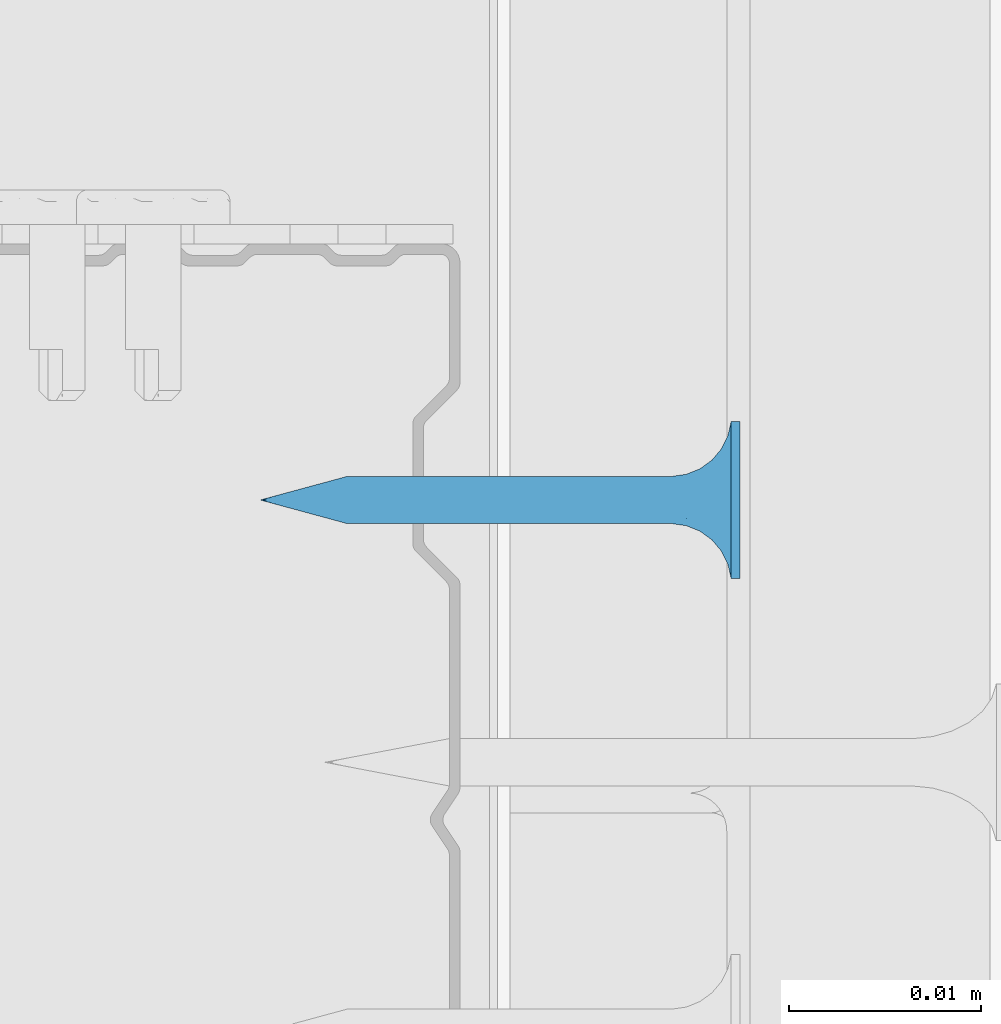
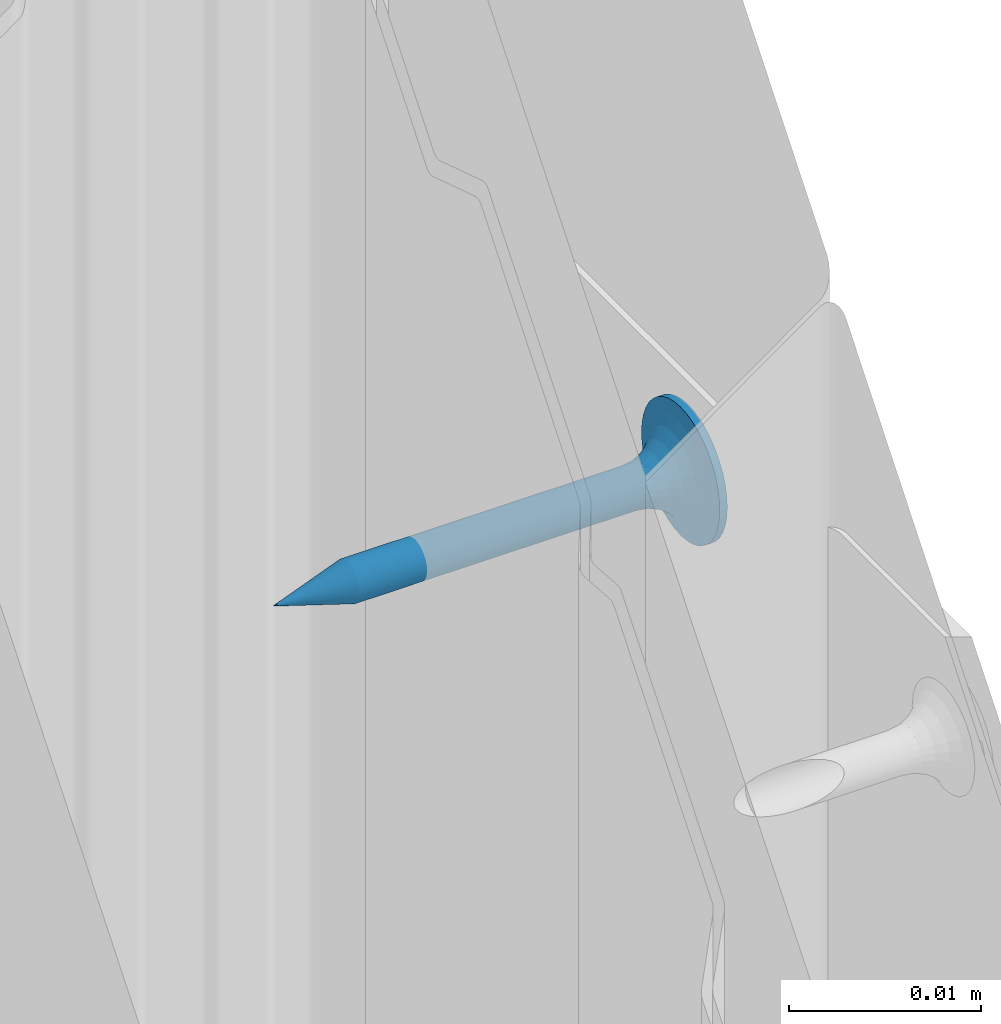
# One storey, part 39 of 67: 1 wall.
"""IFC2X3 building model written with IfcOpenShell, lengths in millimetres."""

from ifc_helpers import new_model, si_unit, frame, origin_with_axes, place, context, subcontext, project, spatial, faceted_brep, material, type_object, element, save


model = new_model("IFC2X3")

# Units and contexts
model_context = context("Model", 3, world=origin_with_axes())
body_context = subcontext(model_context, "Body", "Model", "MODEL_VIEW")
ifc_project = project(units=[si_unit("LENGTHUNIT", "METRE", prefix="MILLI"), si_unit("AREAUNIT", "SQUARE_METRE"), si_unit("VOLUMEUNIT", "CUBIC_METRE")], contexts=[model_context])

# Site, building, storey
site_placement = place(None, frame((2152.14102611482, 674.9749105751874, 57.61556563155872), z_axis=(0.0, 0.0, 1.0), x_axis=(-1.1102230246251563e-16, 1.0, 0.0)))
site = spatial("IfcSite", under=ifc_project, at=site_placement, Name="Default Site", CompositionType="ELEMENT")
building_placement = place(site_placement, origin_with_axes())
building = spatial("IfcBuilding", under=site, at=building_placement, Name="Default Building", CompositionType="ELEMENT")
storey_placement = place(building_placement, origin_with_axes())
storey = spatial("IfcBuildingStorey", under=building, at=storey_placement, Name="Default Building Storey", CompositionType="ELEMENT", Elevation=57.61556563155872)

# Wall
ifc_material = material(Name="Default")
wall_type = type_object("IfcWallType", Name="Wkręt RIGIPS TN 25#17", PredefinedType="NOTDEFINED")
wall_placement = place(storey_placement, frame((2392.151464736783, 5320.213057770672, 300.1214699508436), z_axis=(0.0, 0.0, 1.0), x_axis=(1.0, 0.0, 0.0)))
element("IfcWall", 1, at=wall_placement, inside=storey, type_object=wall_type, material=ifc_material, Name="Wkręt RIGIPS TN 25", context=body_context, shape_type="Brep", body=[
    faceted_brep([(-141.48753293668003, -3390.5567221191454, 555.1619773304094), (-141.48753293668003, -3391.0209445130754, 555.1619773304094), (-141.5377465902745, -3391.0209445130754, 555.8000000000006), (-141.5377465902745, -3390.5567221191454, 555.8000000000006), (-141.33812900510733, -3390.5567221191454, 554.539664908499), (-141.33812900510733, -3391.0209445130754, 554.539664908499), (-141.09321328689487, -3390.5567221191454, 553.9483861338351), (-141.09321328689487, -3391.0209445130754, 553.9483861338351), (-140.75881656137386, -3390.5567221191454, 553.4027002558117), (-140.75881656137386, -3391.0209445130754, 553.4027002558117), (-140.34317265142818, -3391.0209445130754, 552.9160436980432), (-140.45417279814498, -3390.5567221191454, 553.031490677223), (-139.8565160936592, -3391.0209445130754, 552.5003997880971), (-140.1080097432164, -3390.5567221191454, 552.6986613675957), (-139.72512626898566, -3390.5567221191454, 552.408826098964), (-139.31083021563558, -3391.0209445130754, 552.1660030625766), (-139.31083021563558, -3390.5567221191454, 552.1660030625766), (-138.71955144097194, -3391.0209445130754, 551.9210873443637), (-138.87086516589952, -3390.5567221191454, 551.973558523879), (-138.41133029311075, -3390.5567221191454, 551.8341602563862), (-138.0972390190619, -3391.0209445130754, 551.7716834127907), (-137.9385961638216, -3390.5567221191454, 551.7497405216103), (-137.45921634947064, -3391.0209445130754, 551.7214697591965), (-137.45921634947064, -3390.5567221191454, 551.7214697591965), (-136.82119367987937, -3390.5567221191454, 551.7716834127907), (-136.82119367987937, -3391.0209445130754, 551.7716834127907), (-136.19888125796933, -3390.5567221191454, 551.9210873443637), (-136.19888125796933, -3391.0209445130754, 551.9210873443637), (-135.6076024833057, -3390.5567221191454, 552.1660030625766), (-135.6076024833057, -3391.0209445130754, 552.1660030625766), (-135.06191660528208, -3390.5567221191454, 552.5003997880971), (-135.06191660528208, -3391.0209445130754, 552.5003997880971), (-134.57526004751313, -3390.5567221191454, 552.9160436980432), (-134.57526004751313, -3391.0209445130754, 552.9160436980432), (-134.1596161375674, -3390.5567221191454, 553.4027002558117), (-134.1596161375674, -3391.0209445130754, 553.4027002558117), (-133.8252194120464, -3390.5567221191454, 553.9483861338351), (-133.8252194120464, -3391.0209445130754, 553.9483861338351), (-133.58030369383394, -3390.5567221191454, 554.539664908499), (-133.58030369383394, -3391.0209445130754, 554.539664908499), (-133.3806861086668, -3391.0209445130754, 555.8000000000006), (-133.3806861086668, -3390.5567221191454, 555.8000000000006), (-133.43089976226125, -3390.5567221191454, 556.4380226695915), (-133.43089976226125, -3391.0209445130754, 556.4380226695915), (-133.43089976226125, -3391.0209445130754, 555.1619773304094), (-133.43089976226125, -3390.5567221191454, 555.1619773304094), (-133.58030369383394, -3390.5567221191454, 557.060335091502), (-133.58030369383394, -3391.0209445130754, 557.060335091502), (-133.8252194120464, -3390.5567221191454, 557.6516138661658), (-133.8252194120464, -3391.0209445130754, 557.6516138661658), (-134.1596161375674, -3390.5567221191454, 558.1972997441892), (-134.1596161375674, -3391.0209445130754, 558.1972997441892), (-134.57526004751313, -3390.5567221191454, 558.6839563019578), (-134.57526004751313, -3391.0209445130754, 558.6839563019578), (-135.06191660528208, -3390.5567221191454, 559.0996002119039), (-135.06191660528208, -3391.0209445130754, 559.0996002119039), (-135.6076024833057, -3390.5567221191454, 559.4339969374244), (-135.6076024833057, -3391.0209445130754, 559.4339969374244), (-136.19888125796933, -3390.5567221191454, 559.6789126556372), (-136.19888125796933, -3391.0209445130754, 559.6789126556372), (-136.82119367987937, -3390.5567221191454, 559.8283165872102), (-136.82119367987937, -3391.0209445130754, 559.8283165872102), (-137.45921634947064, -3390.5567221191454, 559.8785302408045), (-137.45921634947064, -3391.0209445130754, 559.8785302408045), (-138.0972390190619, -3390.5567221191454, 559.8283165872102), (-138.0972390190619, -3391.0209445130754, 559.8283165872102), (-138.71955144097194, -3390.5567221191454, 559.6789126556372), (-138.71955144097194, -3391.0209445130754, 559.6789126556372), (-139.31083021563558, -3390.5567221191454, 559.4339969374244), (-139.31083021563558, -3391.0209445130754, 559.4339969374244), (-139.8565160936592, -3390.5567221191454, 559.0996002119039), (-139.8565160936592, -3391.0209445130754, 559.0996002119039), (-140.34317265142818, -3390.5567221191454, 558.6839563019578), (-140.34317265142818, -3391.0209445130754, 558.6839563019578), (-140.75881656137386, -3390.5567221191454, 558.1972997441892), (-140.75881656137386, -3391.0209445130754, 558.1972997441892), (-141.09321328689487, -3390.5567221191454, 557.6516138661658), (-141.09321328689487, -3391.0209445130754, 557.6516138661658), (-141.33812900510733, -3390.5567221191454, 557.060335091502), (-141.33812900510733, -3391.0209445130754, 557.060335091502), (-141.48753293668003, -3390.5567221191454, 556.4380226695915), (-141.48753293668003, -3391.0209445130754, 556.4380226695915), (-137.65172779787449, -3387.475459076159, 554.5845305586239), (-137.45921634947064, -3387.475459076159, 554.5693795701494), (-137.8060615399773, -3388.2297325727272, 554.5055561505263), (-137.45921634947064, -3388.2297325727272, 554.4598930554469), (-137.83949898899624, -3387.475459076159, 554.6296104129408), (-138.12926982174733, -3388.2297325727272, 554.639433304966), (-138.01790634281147, -3387.475459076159, 554.7035091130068), (-138.1825568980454, -3387.475459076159, 554.8044072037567), (-138.40681506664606, -3388.2297325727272, 554.8524012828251), (-138.3293964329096, -3387.475459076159, 554.9298199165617), (-138.45480914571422, -3387.475459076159, 555.0766594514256), (-138.6197830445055, -3388.2297325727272, 555.1299465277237), (-138.5557072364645, -3387.475459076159, 555.24131000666), (-138.753660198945, -3388.2297325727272, 555.453154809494), (-138.62960593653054, -3387.475459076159, 555.4197173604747), (-138.67468579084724, -3387.475459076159, 555.6074885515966), (-138.79932329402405, -3388.2297325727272, 555.7999999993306), (-138.68983677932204, -3387.475459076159, 555.8000000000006), (-138.67468579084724, -3387.475459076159, 555.9925114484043), (-138.753660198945, -3388.2297325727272, 556.146845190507), (-138.62960593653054, -3387.475459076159, 556.1802826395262), (-138.6197830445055, -3388.2297325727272, 556.4700534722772), (-138.5557072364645, -3387.475459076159, 556.3586899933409), (-138.45480914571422, -3387.475459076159, 556.5233405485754), (-138.40681506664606, -3388.2297325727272, 556.747598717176), (-138.3293964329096, -3387.475459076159, 556.6701800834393), (-138.1825568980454, -3387.475459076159, 556.7955927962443), (-138.12926982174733, -3388.2297325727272, 556.960566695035), (-138.01790634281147, -3387.475459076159, 556.8964908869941), (-137.8060615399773, -3388.2297325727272, 557.0944438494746), (-137.83949898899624, -3387.475459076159, 556.9703895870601), (-137.65172779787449, -3387.475459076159, 557.015469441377), (-137.45921634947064, -3388.2297325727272, 557.1401069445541), (-137.45921634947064, -3387.475459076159, 557.0306204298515), (-137.26670490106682, -3387.475459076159, 557.015469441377), (-137.11237115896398, -3388.2297325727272, 557.0944438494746), (-137.07893370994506, -3387.475459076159, 556.9703895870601), (-136.78916287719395, -3388.2297325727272, 556.960566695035), (-136.9005263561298, -3387.475459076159, 556.8964908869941), (-136.7358758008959, -3387.475459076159, 556.7955927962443), (-136.5116176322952, -3388.2297325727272, 556.747598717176), (-136.58903626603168, -3387.475459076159, 556.6701800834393), (-136.46362355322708, -3387.475459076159, 556.5233405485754), (-136.2986496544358, -3388.2297325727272, 556.4700534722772), (-136.36272546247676, -3387.475459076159, 556.3586899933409), (-136.16477249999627, -3388.2297325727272, 556.146845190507), (-136.28882676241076, -3387.475459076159, 556.1802826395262), (-136.24374690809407, -3387.475459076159, 555.9925114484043), (-136.11910940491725, -3388.2297325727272, 555.7999999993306), (-136.22859591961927, -3387.475459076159, 555.8000000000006), (-136.24374690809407, -3387.475459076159, 555.6074885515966), (-136.16477249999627, -3388.2297325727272, 555.453154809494), (-136.28882676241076, -3387.475459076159, 555.4197173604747), (-136.2986496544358, -3388.2297325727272, 555.1299465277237), (-136.36272546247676, -3387.475459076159, 555.24131000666), (-136.46362355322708, -3387.475459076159, 555.0766594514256), (-136.5116176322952, -3388.2297325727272, 554.8524012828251), (-136.58903626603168, -3387.475459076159, 554.9298199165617), (-136.7358758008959, -3387.475459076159, 554.8044072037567), (-136.78916287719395, -3388.2297325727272, 554.639433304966), (-136.9005263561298, -3387.475459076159, 554.7035091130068), (-137.11237115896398, -3388.2297325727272, 554.5055561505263), (-137.07893370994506, -3387.475459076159, 554.6296104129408), (-137.26670490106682, -3387.475459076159, 554.5845305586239), (-137.45921634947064, -3388.9361426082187, 554.1737111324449), (-137.88013087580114, -3388.9361426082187, 554.2291255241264), (-138.2723607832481, -3388.9361426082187, 554.391592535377), (-138.60917621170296, -3388.9361426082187, 554.6500401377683), (-138.8676238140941, -3388.9361426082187, 554.9868555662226), (-139.03009082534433, -3388.9361426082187, 555.3790854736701), (-139.08550521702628, -3388.9361426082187, 555.7999999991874), (-139.03009082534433, -3388.9361426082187, 556.2209145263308), (-138.8676238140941, -3388.9361426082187, 556.6131444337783), (-138.60917621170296, -3388.9361426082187, 556.9499598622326), (-138.2723607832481, -3388.9361426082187, 557.208407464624), (-137.88013087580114, -3388.9361426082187, 557.3708744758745), (-137.45921634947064, -3388.9361426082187, 557.4262888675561), (-137.03830182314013, -3388.9361426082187, 557.3708744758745), (-136.64607191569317, -3388.9361426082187, 557.208407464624), (-136.30925648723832, -3388.9361426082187, 556.9499598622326), (-136.05080888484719, -3388.9361426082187, 556.6131444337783), (-135.88834187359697, -3388.9361426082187, 556.2209145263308), (-135.832927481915, -3388.9361426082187, 555.7999999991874), (-135.88834187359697, -3388.9361426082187, 555.3790854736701), (-136.05080888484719, -3388.9361426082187, 554.9868555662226), (-136.30925648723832, -3388.9361426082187, 554.6500401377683), (-136.64607191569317, -3388.9361426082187, 554.391592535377), (-137.03830182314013, -3388.9361426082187, 554.2291255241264), (-137.45921634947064, -3389.5539382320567, 553.7273430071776), (-137.99565943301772, -3389.5539382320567, 553.7979670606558), (-138.49554484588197, -3389.5539382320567, 554.0050264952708), (-138.92480608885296, -3389.5539382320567, 554.3344102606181), (-139.25418985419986, -3389.5539382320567, 554.763671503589), (-139.46124928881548, -3389.5539382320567, 555.2635569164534), (-139.53187334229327, -3389.5539382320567, 555.7999999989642), (-139.46124928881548, -3389.5539382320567, 556.3364430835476), (-139.25418985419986, -3389.5539382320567, 556.836328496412), (-138.92480608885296, -3389.5539382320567, 557.2655897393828), (-138.49554484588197, -3389.5539382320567, 557.5949735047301), (-137.99565943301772, -3389.5539382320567, 557.8020329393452), (-137.45921634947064, -3389.5539382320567, 557.8726569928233), (-136.92277326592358, -3389.5539382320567, 557.8020329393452), (-136.42288785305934, -3389.5539382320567, 557.5949735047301), (-135.9936266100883, -3389.5539382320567, 557.2655897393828), (-135.6642428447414, -3389.5539382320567, 556.836328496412), (-135.45718341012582, -3389.5539382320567, 556.3364430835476), (-135.386559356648, -3389.5539382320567, 555.7999999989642), (-135.45718341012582, -3389.5539382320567, 555.2635569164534), (-135.6642428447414, -3389.5539382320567, 554.763671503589), (-135.9936266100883, -3389.5539382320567, 554.3344102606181), (-136.42288785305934, -3389.5539382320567, 554.0050264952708), (-136.92277326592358, -3389.5539382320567, 553.7979670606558), (-137.45921634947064, -3390.047479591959, 553.1465392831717), (-138.14598252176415, -3390.047479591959, 553.2369539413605), (-138.78594670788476, -3390.047479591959, 553.5020355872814), (-139.33549641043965, -3390.047479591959, 553.9237199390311), (-139.75718076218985, -3390.047479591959, 554.4732696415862), (-140.02226240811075, -3390.047479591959, 555.113233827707), (-140.11267706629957, -3390.047479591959, 555.7999999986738), (-140.02226240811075, -3390.047479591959, 556.486766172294), (-139.75718076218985, -3390.047479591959, 557.1267303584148), (-139.33549641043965, -3390.047479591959, 557.6762800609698), (-138.78594670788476, -3390.047479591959, 558.0979644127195), (-138.14598252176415, -3390.047479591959, 558.3630460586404), (-137.45921634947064, -3390.047479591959, 558.4534607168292), (-136.77245017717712, -3390.047479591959, 558.3630460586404), (-136.13248599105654, -3390.047479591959, 558.0979644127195), (-135.58293628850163, -3390.047479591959, 557.6762800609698), (-135.16125193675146, -3390.047479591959, 557.1267303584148), (-134.89617029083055, -3390.047479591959, 556.486766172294), (-134.8057556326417, -3390.047479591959, 555.7999999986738), (-134.89617029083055, -3390.047479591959, 555.113233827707), (-135.16125193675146, -3390.047479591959, 554.4732696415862), (-135.58293628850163, -3390.047479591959, 553.9237199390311), (-136.13248599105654, -3390.047479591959, 553.5020355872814), (-136.77245017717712, -3390.047479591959, 553.2369539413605), (-137.45921634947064, -3390.3882942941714, 552.4648055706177), (-138.3224281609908, -3390.3882942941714, 552.5784495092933), (-139.12681356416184, -3390.3882942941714, 552.9116369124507), (-139.8175549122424, -3390.3882942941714, 553.4416614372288), (-140.34757943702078, -3390.3882942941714, 554.1324027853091), (-140.680766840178, -3390.3882942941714, 554.9367881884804), (-140.79441077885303, -3390.3882942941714, 555.7999999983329), (-140.680766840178, -3390.3882942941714, 556.6632118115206), (-140.34757943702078, -3390.3882942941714, 557.4675972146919), (-139.8175549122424, -3390.3882942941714, 558.1583385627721), (-139.12681356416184, -3390.3882942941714, 558.6883630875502), (-138.3224281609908, -3390.3882942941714, 559.0215504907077), (-137.45921634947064, -3390.3882942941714, 559.1351944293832), (-136.5960045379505, -3390.3882942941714, 559.0215504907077), (-135.79161913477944, -3390.3882942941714, 558.6883630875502), (-135.10087778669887, -3390.3882942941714, 558.1583385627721), (-134.5708532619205, -3390.3882942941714, 557.4675972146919), (-134.23766585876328, -3390.3882942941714, 556.6632118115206), (-134.12402192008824, -3390.3882942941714, 555.7999999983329), (-134.23766585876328, -3390.3882942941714, 554.9367881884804), (-134.5708532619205, -3390.3882942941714, 554.1324027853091), (-135.10087778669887, -3390.3882942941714, 553.4416614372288), (-135.79161913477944, -3390.3882942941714, 552.9116369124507), (-136.5960045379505, -3390.3882942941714, 552.5784495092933), (-138.67468579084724, -3370.558073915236, 555.6074885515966), (-138.68983677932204, -3370.558073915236, 555.8000000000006), (-138.62960593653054, -3370.558073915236, 555.4197173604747), (-138.5557072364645, -3370.558073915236, 555.24131000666), (-138.45480914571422, -3370.558073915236, 555.0766594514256), (-138.3293964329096, -3370.558073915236, 554.9298199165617), (-138.1825568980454, -3370.558073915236, 554.8044072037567), (-138.01790634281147, -3370.558073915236, 554.7035091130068), (-137.83949898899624, -3370.558073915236, 554.6296104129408), (-137.65172779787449, -3370.558073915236, 554.5845305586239), (-137.45921634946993, -3370.558073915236, 554.5693795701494), (-137.26670490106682, -3370.558073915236, 554.5845305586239), (-137.07893370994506, -3370.558073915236, 554.6296104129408), (-136.9005263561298, -3370.558073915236, 554.7035091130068), (-136.7358758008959, -3370.558073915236, 554.8044072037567), (-136.58903626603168, -3370.558073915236, 554.9298199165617), (-136.46362355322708, -3370.558073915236, 555.0766594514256), (-136.36272546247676, -3370.558073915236, 555.24131000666), (-136.28882676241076, -3370.558073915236, 555.4197173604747), (-136.22859591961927, -3370.558073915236, 555.8000000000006), (-136.24374690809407, -3370.558073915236, 555.9925114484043), (-136.24374690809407, -3370.558073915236, 555.6074885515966), (-136.28882676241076, -3370.558073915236, 556.1802826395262), (-136.36272546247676, -3370.558073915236, 556.3586899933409), (-136.46362355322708, -3370.558073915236, 556.5233405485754), (-136.58903626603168, -3370.558073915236, 556.6701800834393), (-136.7358758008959, -3370.558073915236, 556.7955927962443), (-136.9005263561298, -3370.558073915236, 556.8964908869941), (-137.07893370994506, -3370.558073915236, 556.9703895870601), (-137.26670490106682, -3370.558073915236, 557.015469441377), (-137.45921634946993, -3370.558073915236, 557.0306204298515), (-137.65172779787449, -3370.558073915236, 557.015469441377), (-137.83949898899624, -3370.558073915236, 556.9703895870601), (-138.01790634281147, -3370.558073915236, 556.8964908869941), (-138.1825568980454, -3370.558073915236, 556.7955927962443), (-138.3293964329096, -3370.558073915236, 556.6701800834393), (-138.45480914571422, -3370.558073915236, 556.5233405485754), (-138.5557072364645, -3370.558073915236, 556.3586899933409), (-138.62960593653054, -3370.558073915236, 556.1802826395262), (-138.67468579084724, -3370.558073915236, 555.9925114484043), (-137.45921634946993, -3366.0210335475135, 555.8000000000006), (-139.95921629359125, -3391.0209445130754, 555.2999999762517), (-139.95921629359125, -3391.0209445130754, 556.3000000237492), (-137.95921637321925, -3391.0209445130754, 556.3000000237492), (-137.95921637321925, -3391.0209445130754, 558.299999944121), (-136.95921632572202, -3391.0209445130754, 558.299999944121), (-136.95921632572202, -3391.0209445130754, 556.3000000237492), (-134.95921640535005, -3391.0209445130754, 556.3000000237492), (-134.95921640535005, -3391.0209445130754, 555.2999999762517), (-136.95921632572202, -3391.0209445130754, 555.2999999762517), (-136.95921632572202, -3391.0209445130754, 553.3000000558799), (-137.95921637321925, -3391.0209445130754, 553.3000000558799), (-137.95921637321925, -3391.0209445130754, 555.2999999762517), (-136.95921632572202, -3390.72897497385, 558.299999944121), (-137.95921637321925, -3390.72897497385, 558.299999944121), (-137.95921637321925, -3390.72897497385, 556.3000000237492), (-139.95921629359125, -3390.72897497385, 556.3000000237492), (-139.95921629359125, -3390.72897497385, 555.2999999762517), (-137.95921637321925, -3390.72897497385, 555.2999999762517), (-137.95921637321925, -3390.72897497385, 553.3000000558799), (-136.95921632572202, -3390.72897497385, 553.3000000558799), (-136.95921632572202, -3390.72897497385, 555.2999999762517), (-134.95921640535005, -3390.72897497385, 555.2999999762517), (-134.95921640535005, -3390.72897497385, 556.3000000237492), (-136.95921632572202, -3390.72897497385, 556.3000000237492)], [[[0, 1, 2, 3]], [[1, 0, 4, 5]], [[5, 4, 6, 7]], [[8, 9, 7, 6]], [[8, 10, 9]], [[8, 11, 10]], [[12, 11, 13]], [[12, 10, 11]], [[13, 14, 12]], [[14, 15, 12]], [[14, 16, 15]], [[17, 16, 18]], [[17, 15, 16]], [[18, 19, 17]], [[20, 19, 21]], [[20, 17, 19]], [[21, 22, 20]], [[21, 23, 22]], [[24, 25, 22, 23]], [[25, 24, 26, 27]], [[27, 26, 28, 29]], [[30, 31, 29, 28]], [[31, 30, 32, 33]], [[34, 35, 33, 32]], [[35, 34, 36, 37]], [[37, 36, 38, 39]], [[40, 41, 42, 43]], [[44, 45, 41, 40]], [[45, 44, 39, 38]], [[43, 42, 46, 47]], [[47, 46, 48, 49]], [[50, 51, 49, 48]], [[51, 50, 52, 53]], [[54, 55, 53, 52]], [[55, 54, 56, 57]], [[57, 56, 58, 59]], [[60, 61, 59, 58]], [[61, 60, 62, 63]], [[64, 65, 63, 62]], [[65, 64, 66, 67]], [[67, 66, 68, 69]], [[70, 71, 69, 68]], [[71, 70, 72, 73]], [[74, 75, 73, 72]], [[75, 74, 76, 77]], [[77, 76, 78, 79]], [[80, 81, 79, 78]], [[81, 80, 3, 2]], [[82, 83, 84]], [[83, 85, 84]], [[84, 86, 82]], [[84, 87, 88, 86]], [[89, 88, 87]], [[87, 90, 89]], [[90, 91, 89]], [[92, 91, 93]], [[91, 90, 93]], [[93, 94, 92]], [[93, 95, 96, 94]], [[97, 96, 95]], [[95, 98, 97]], [[98, 99, 97]], [[100, 99, 101]], [[99, 98, 101]], [[101, 102, 100]], [[101, 103, 104, 102]], [[105, 104, 103]], [[103, 106, 105]], [[106, 107, 105]], [[108, 107, 109]], [[107, 106, 109]], [[109, 110, 108]], [[109, 111, 112, 110]], [[113, 112, 111]], [[111, 114, 113]], [[114, 115, 113]], [[116, 115, 117]], [[115, 114, 117]], [[117, 118, 116]], [[117, 119, 120, 118]], [[121, 120, 119]], [[119, 122, 121]], [[122, 123, 121]], [[124, 123, 125]], [[123, 122, 125]], [[125, 126, 124]], [[125, 127, 128, 126]], [[129, 128, 127]], [[127, 130, 129]], [[130, 131, 129]], [[132, 131, 133]], [[131, 130, 133]], [[133, 134, 132]], [[133, 135, 136, 134]], [[137, 136, 135]], [[135, 138, 137]], [[138, 139, 137]], [[140, 139, 141]], [[139, 138, 141]], [[141, 142, 140]], [[141, 143, 144, 142]], [[145, 144, 143]], [[143, 85, 145]], [[85, 83, 145]], [[146, 147, 84, 85]], [[84, 147, 148, 87]], [[87, 148, 149, 90]], [[90, 149, 150, 93]], [[93, 150, 151, 95]], [[95, 151, 152, 98]], [[98, 152, 153, 101]], [[101, 153, 154, 103]], [[103, 154, 155, 106]], [[106, 155, 156, 109]], [[109, 156, 157, 111]], [[111, 157, 158, 114]], [[114, 158, 159, 117]], [[117, 159, 160, 119]], [[119, 160, 161, 122]], [[122, 161, 162, 125]], [[125, 162, 163, 127]], [[127, 163, 164, 130]], [[130, 164, 165, 133]], [[133, 165, 166, 135]], [[135, 166, 167, 138]], [[138, 167, 168, 141]], [[141, 168, 169, 143]], [[143, 169, 146, 85]], [[170, 171, 147, 146]], [[147, 171, 172, 148]], [[148, 172, 173, 149]], [[149, 173, 174, 150]], [[150, 174, 175, 151]], [[151, 175, 176, 152]], [[152, 176, 177, 153]], [[153, 177, 178, 154]], [[154, 178, 179, 155]], [[155, 179, 180, 156]], [[156, 180, 181, 157]], [[157, 181, 182, 158]], [[158, 182, 183, 159]], [[159, 183, 184, 160]], [[160, 184, 185, 161]], [[161, 185, 186, 162]], [[162, 186, 187, 163]], [[163, 187, 188, 164]], [[164, 188, 189, 165]], [[165, 189, 190, 166]], [[166, 190, 191, 167]], [[167, 191, 192, 168]], [[168, 192, 193, 169]], [[169, 193, 170, 146]], [[194, 195, 171, 170]], [[171, 195, 196, 172]], [[172, 196, 197, 173]], [[173, 197, 198, 174]], [[174, 198, 199, 175]], [[175, 199, 200, 176]], [[176, 200, 201, 177]], [[177, 201, 202, 178]], [[178, 202, 203, 179]], [[179, 203, 204, 180]], [[180, 204, 205, 181]], [[181, 205, 206, 182]], [[182, 206, 207, 183]], [[183, 207, 208, 184]], [[184, 208, 209, 185]], [[185, 209, 210, 186]], [[186, 210, 211, 187]], [[187, 211, 212, 188]], [[188, 212, 213, 189]], [[189, 213, 214, 190]], [[190, 214, 215, 191]], [[191, 215, 216, 192]], [[192, 216, 217, 193]], [[193, 217, 194, 170]], [[21, 19, 218]], [[19, 219, 218]], [[218, 23, 21]], [[218, 219, 195, 194]], [[18, 16, 219]], [[16, 220, 219]], [[219, 19, 18]], [[195, 219, 220, 196]], [[13, 11, 221]], [[14, 13, 220]], [[13, 221, 220]], [[220, 16, 14]], [[196, 220, 221, 197]], [[8, 6, 222]], [[222, 221, 8]], [[221, 11, 8]], [[197, 221, 222, 198]], [[4, 223, 222, 6]], [[198, 222, 223, 199]], [[0, 3, 223]], [[3, 224, 223]], [[223, 4, 0]], [[199, 223, 224, 200]], [[80, 78, 225]], [[225, 224, 80]], [[224, 3, 80]], [[200, 224, 225, 201]], [[78, 76, 226, 225]], [[201, 225, 226, 202]], [[74, 72, 226]], [[72, 227, 226]], [[226, 76, 74]], [[202, 226, 227, 203]], [[70, 68, 228]], [[228, 227, 70]], [[227, 72, 70]], [[203, 227, 228, 204]], [[68, 66, 229, 228]], [[204, 228, 229, 205]], [[64, 62, 229]], [[62, 230, 229]], [[229, 66, 64]], [[205, 229, 230, 206]], [[60, 58, 231]], [[231, 230, 60]], [[230, 62, 60]], [[206, 230, 231, 207]], [[58, 56, 232, 231]], [[207, 231, 232, 208]], [[54, 52, 232]], [[52, 233, 232]], [[232, 56, 54]], [[208, 232, 233, 209]], [[50, 48, 234]], [[234, 233, 50]], [[233, 52, 50]], [[209, 233, 234, 210]], [[48, 46, 235, 234]], [[210, 234, 235, 211]], [[42, 41, 235]], [[41, 236, 235]], [[235, 46, 42]], [[211, 235, 236, 212]], [[45, 38, 237]], [[237, 236, 45]], [[236, 41, 45]], [[212, 236, 237, 213]], [[36, 238, 237, 38]], [[213, 237, 238, 214]], [[34, 32, 238]], [[32, 239, 238]], [[238, 36, 34]], [[214, 238, 239, 215]], [[30, 28, 240]], [[240, 239, 30]], [[239, 32, 30]], [[215, 239, 240, 216]], [[26, 241, 240, 28]], [[216, 240, 241, 217]], [[217, 241, 218, 194]], [[24, 23, 241]], [[23, 218, 241]], [[241, 26, 24]], [[242, 97, 99, 243]], [[97, 242, 244, 96]], [[96, 244, 245, 94]], [[246, 92, 94, 245]], [[92, 246, 247, 91]], [[248, 89, 91, 247]], [[89, 248, 249, 88]], [[88, 249, 250, 86]], [[251, 82, 86, 250]], [[82, 251, 252, 83]], [[253, 145, 83, 252]], [[145, 253, 254, 144]], [[144, 254, 255, 142]], [[256, 140, 142, 255]], [[140, 256, 257, 139]], [[258, 137, 139, 257]], [[137, 258, 259, 136]], [[136, 259, 260, 134]], [[131, 261, 262, 129]], [[132, 263, 261, 131]], [[263, 132, 134, 260]], [[129, 262, 264, 128]], [[128, 264, 265, 126]], [[266, 124, 126, 265]], [[124, 266, 267, 123]], [[268, 121, 123, 267]], [[121, 268, 269, 120]], [[120, 269, 270, 118]], [[271, 116, 118, 270]], [[116, 271, 272, 115]], [[273, 113, 115, 272]], [[113, 273, 274, 112]], [[112, 274, 275, 110]], [[276, 108, 110, 275]], [[108, 276, 277, 107]], [[278, 105, 107, 277]], [[105, 278, 279, 104]], [[104, 279, 280, 102]], [[281, 100, 102, 280]], [[100, 281, 243, 99]], [[282, 244, 242]], [[242, 243, 282]], [[282, 245, 244]], [[282, 247, 246]], [[246, 245, 282]], [[282, 249, 248]], [[248, 247, 282]], [[282, 250, 249]], [[282, 252, 251]], [[251, 250, 282]], [[282, 254, 253]], [[253, 252, 282]], [[282, 255, 254]], [[282, 257, 256]], [[256, 255, 282]], [[282, 259, 258]], [[258, 257, 282]], [[282, 260, 259]], [[282, 261, 263]], [[263, 260, 282]], [[282, 264, 262]], [[262, 261, 282]], [[282, 265, 264]], [[282, 267, 266]], [[266, 265, 282]], [[282, 269, 268]], [[268, 267, 282]], [[282, 270, 269]], [[282, 272, 271]], [[271, 270, 282]], [[282, 274, 273]], [[273, 272, 282]], [[282, 275, 274]], [[282, 277, 276]], [[276, 275, 282]], [[282, 279, 278]], [[278, 277, 282]], [[282, 280, 279]], [[282, 243, 281]], [[281, 280, 282]], [[75, 77, 79, 81, 2, 1, 5, 7, 9, 10, 12, 15, 17, 20, 22, 25, 27, 29, 31, 33, 35, 37, 39, 44, 40, 43, 47, 49, 51, 53, 55, 57, 59, 61, 63, 65, 67, 69, 71, 73], [283, 284, 285, 286, 287, 288, 289, 290, 291, 292, 293, 294]], [[295, 296, 297, 298, 299, 300, 301, 302, 303, 304, 305, 306]], [[303, 291, 290, 304]], [[304, 290, 289, 305]], [[305, 289, 288, 306]], [[306, 288, 287, 295]], [[295, 287, 286, 296]], [[296, 286, 285, 297]], [[297, 285, 284, 298]], [[298, 284, 283, 299]], [[299, 283, 294, 300]], [[300, 294, 293, 301]], [[301, 293, 292, 302]], [[302, 292, 291, 303]]]),
])

save(model, "model.ifc")
